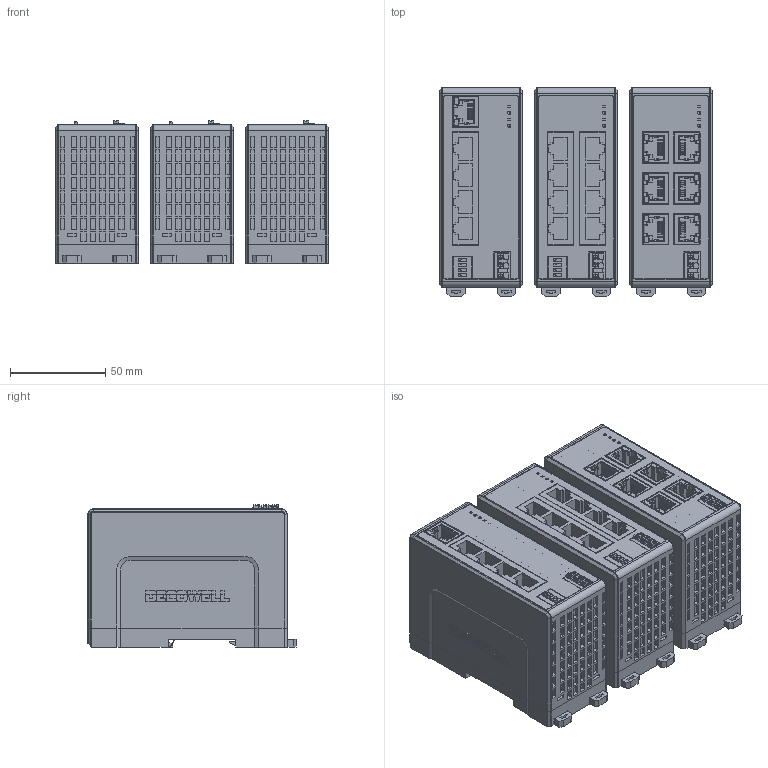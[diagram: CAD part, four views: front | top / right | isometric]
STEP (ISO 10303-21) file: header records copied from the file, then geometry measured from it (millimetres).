
FILE_DESCRIPTION(/* description */ (''),/* implementation_level */ '2;1');
FILE_NAME(/* name */ 'FNS系列-3D-20240730.stp',/* time_stamp */ '2024-07-30T13:39:52+08:00',/* author */ (''),/* organization */ (''),/* preprocessor_version */ 'ST-DEVELOPER v16',/* originating_system */ 'SIEMENS PLM Software NX 10.0',/* authorisation */ '');
FILE_SCHEMA (('AP203_CONFIGURATION_CONTROLLED_3D_DESIGN_OF_MECHANICAL_PARTS_AND_ASSEMBLIES_MIM_LF { 1 0 10303 403 2 1 2}'));
Products named in the file (1): chao80A0D7F7ewfw
Bounding box: 144 x 109.7 x 74.92 mm (x, y, z)
Volume: 941500.9 mm3; surface area: 231804.3 mm2
Topology: 52 solids, 52 shells, 11043 faces, 30045 edges, 19927 vertices
Faces by surface type: plane 9066, cylinder 1480, extrusion 239, torus 136, cone 92, bspline 30
Entity records: 353029 total; most frequent: CARTESIAN_POINT 72258, ORIENTED_EDGE 60090, DIRECTION 53995, EDGE_CURVE 30045, VECTOR 25897, LINE 25658, VERTEX_POINT 19927, AXIS2_PLACEMENT_3D 14049
